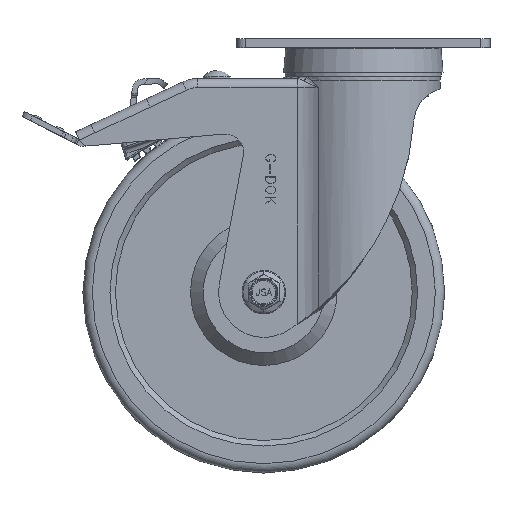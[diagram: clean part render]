
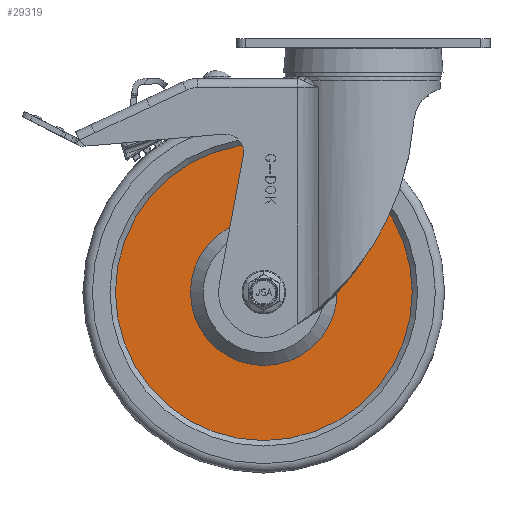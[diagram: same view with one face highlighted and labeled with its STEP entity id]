
A CAD part, front view. The second image highlights one B-rep face of the part: STEP entity #29319.
In plain terms, the highlighted planar face has unit normal (0, -1, 0).
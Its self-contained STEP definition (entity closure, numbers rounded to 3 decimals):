
#1192=FACE_BOUND('',#4348,.T.);
#1692=PLANE('',#31075);
#2657=FACE_OUTER_BOUND('',#4347,.T.);
#4347=EDGE_LOOP('',(#20310,#20311));
#4348=EDGE_LOOP('',(#20312,#20313));
#11879=CIRCLE('',#31073,82.);
#11880=CIRCLE('',#31074,82.);
#11881=CIRCLE('',#31076,40.5);
#11882=CIRCLE('',#31077,40.5);
#12746=VERTEX_POINT('',#42190);
#12747=VERTEX_POINT('',#42191);
#12748=VERTEX_POINT('',#42196);
#12749=VERTEX_POINT('',#42197);
#15707=EDGE_CURVE('',#12746,#12747,#11879,.T.);
#15708=EDGE_CURVE('',#12747,#12746,#11880,.T.);
#15710=EDGE_CURVE('',#12748,#12749,#11881,.T.);
#15711=EDGE_CURVE('',#12749,#12748,#11882,.T.);
#20310=ORIENTED_EDGE('',*,*,#15707,.T.);
#20311=ORIENTED_EDGE('',*,*,#15708,.T.);
#20312=ORIENTED_EDGE('',*,*,#15710,.F.);
#20313=ORIENTED_EDGE('',*,*,#15711,.F.);
#29319=ADVANCED_FACE('',(#2657,#1192),#1692,.T.);
#31073=AXIS2_PLACEMENT_3D('',#42192,#33585,#33586);
#31074=AXIS2_PLACEMENT_3D('',#42193,#33587,#33588);
#31075=AXIS2_PLACEMENT_3D('',#42195,#33590,#33591);
#31076=AXIS2_PLACEMENT_3D('',#42198,#33592,#33593);
#31077=AXIS2_PLACEMENT_3D('',#42199,#33594,#33595);
#33585=DIRECTION('center_axis',(0.,-1.,0.));
#33586=DIRECTION('ref_axis',(0.,0.,
1.));
#33587=DIRECTION('center_axis',(0.,-1.,0.));
#33588=DIRECTION('ref_axis',(0.,0.,
1.));
#33590=DIRECTION('center_axis',(0.,-1.,0.));
#33591=DIRECTION('ref_axis',(0.,0.,
1.));
#33592=DIRECTION('center_axis',(0.,-1.,0.));
#33593=DIRECTION('ref_axis',(0.,0.,
1.));
#33594=DIRECTION('center_axis',(0.,-1.,0.));
#33595=DIRECTION('ref_axis',(0.,0.,
1.));
#42190=CARTESIAN_POINT('',(-55.,-17.,-58.));
#42191=CARTESIAN_POINT('',(-55.,-17.,-222.));
#42192=CARTESIAN_POINT('Origin',(-55.,-17.,-140.));
#42193=CARTESIAN_POINT('Origin',(-55.,-17.,-140.));
#42195=CARTESIAN_POINT('Origin',(-55.,-17.,-99.5));
#42196=CARTESIAN_POINT('',(-55.,-17.,-99.5));
#42197=CARTESIAN_POINT('',(-55.,-17.,-180.5));
#42198=CARTESIAN_POINT('Origin',(-55.,-17.,-140.));
#42199=CARTESIAN_POINT('Origin',(-55.,-17.,-140.));
